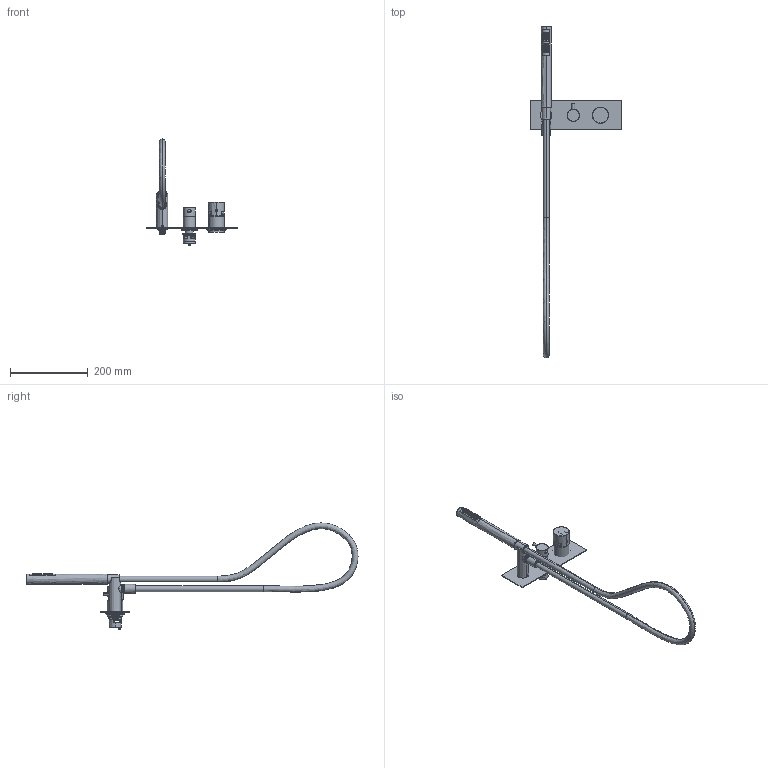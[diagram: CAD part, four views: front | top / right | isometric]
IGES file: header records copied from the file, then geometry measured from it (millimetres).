
Start section:  PTC IGES file: 78529sv2_sw0001.igs
Global section: file name: 78529sv2_sw0001.igs; native system: Creo Parametric by PTC Inc.; preprocessor: 2022014; author: volponeff; organization: Unknown; date: 20230601.093409; units: millimetre
Bounding box: 235 x 856.76 x 273.93 mm (x, y, z)
Surface area: 172721.5 mm2 (no closed solid volume)
Topology: 0 solids, 0 shells, 311 faces, 1391 edges, 1387 vertices
Faces by surface type: revolution 252, bspline 59
